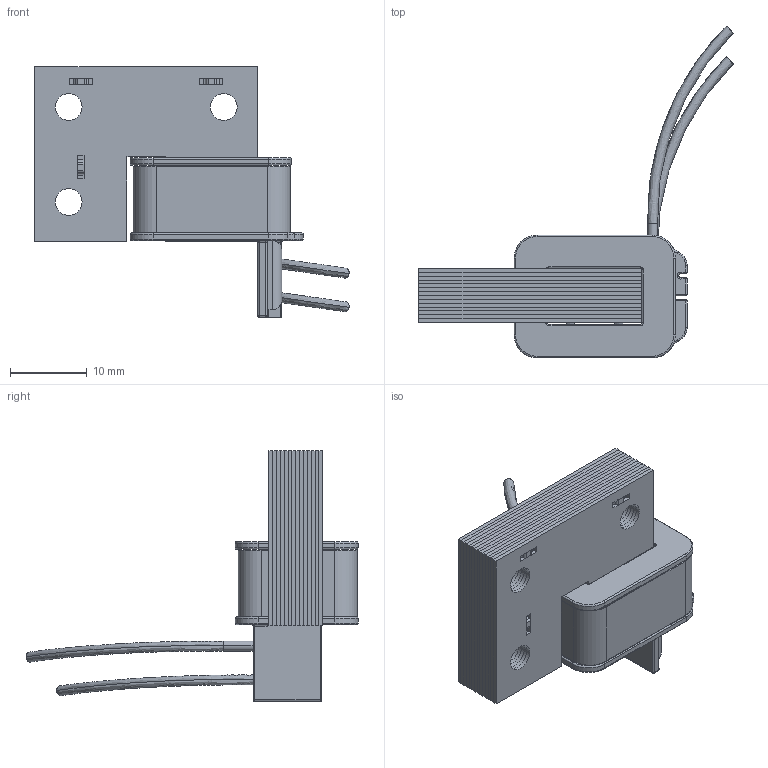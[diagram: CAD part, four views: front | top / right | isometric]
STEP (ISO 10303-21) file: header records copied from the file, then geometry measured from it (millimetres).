
FILE_DESCRIPTION (( 'STEP AP214' ), '1' );
FILE_NAME ('Stationary component.STEP', '2018-11-14T22:40:45', ( '' ), ( '' ), 'SwSTEP 2.0', 'SolidWorks 2018', '' );
FILE_SCHEMA (( 'AUTOMOTIVE_DESIGN' ));
Length unit declared in the file: millimetre
Products named in the file (8): New U Core Haptic Actuator Full single; Bobbin redesign 11-7-18; Stationary component; Epoxy Blob; lead wire blob; Coil Blob; New U Core Actuatuor Full assem; Punch
Assembly tree (24 placements, depth 3):
  Stationary component
    Bobbin redesign 11-7-18
    New U Core Actuatuor Full assem
      New U Core Haptic Actuator Full single  x14
      Punch  x4
    Coil Blob
    lead wire blob  x2
    Epoxy Blob
Bounding box: 40.94 x 43.25 x 32.66 mm (x, y, z)
Volume: 6724.2 mm3; surface area: 21292.4 mm2
Topology: 23 solids, 23 shells, 846 faces, 2212 edges, 1386 vertices
Faces by surface type: plane 469, cylinder 266, torus 63, bspline 24, sphere 24
Entity records: 12391 total; most frequent: CARTESIAN_POINT 3325, DIRECTION 1900, ORIENTED_EDGE 1704, EDGE_CURVE 852, AXIS2_PLACEMENT_3D 745, VERTEX_POINT 500, VECTOR 410, LINE 410
